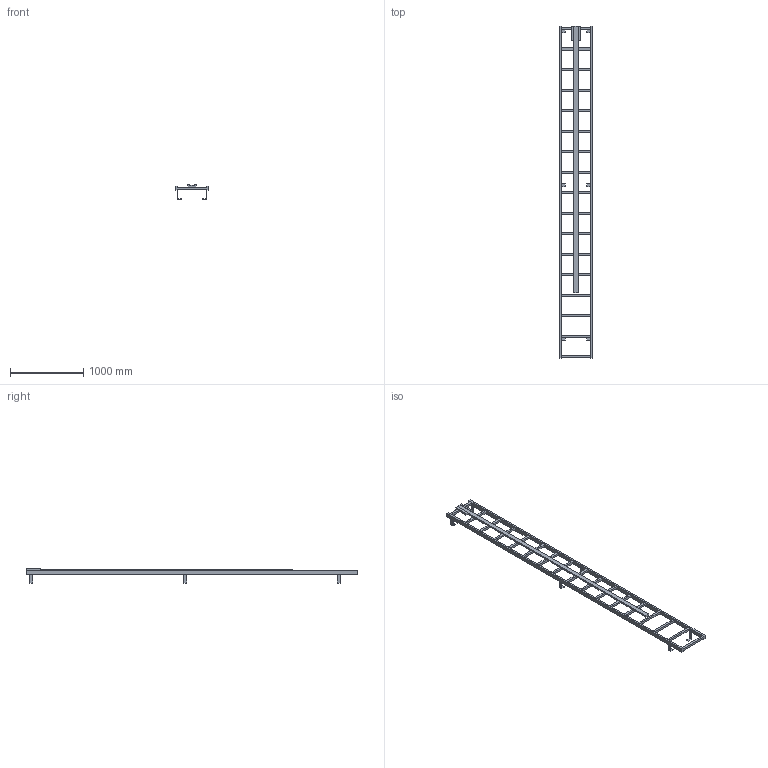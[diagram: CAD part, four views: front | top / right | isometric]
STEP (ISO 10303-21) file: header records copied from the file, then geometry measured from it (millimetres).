
FILE_DESCRIPTION((''),'2;1');
FILE_NAME('017_000109','2017-06-19T',('set'),('HUBER SE'),'PRO/ENGINEER BY PARAMETRIC TECHNOLOGY CORPORATION, 2015280','PRO/ENGINEER BY PARAMETRIC TECHNOLOGY CORPORATION, 2015280','');
FILE_SCHEMA(('CONFIG_CONTROL_DESIGN'));
Length unit declared in the file: millimetre
Products named in the file (1): 017_000109
Bounding box: 450 x 4530 x 195 mm (x, y, z)
Volume: 24380100 mm3; surface area: 2936500 mm2
Topology: 1 solids, 1 shells, 166 faces, 607 edges, 415 vertices
Faces by surface type: plane 166
Entity records: 6292 total; most frequent: CARTESIAN_POINT 1246, ORIENTED_EDGE 1012, DIRECTION 928, VECTOR 560, LINE 560, EDGE_CURVE 506, VERTEX_POINT 314, EDGE_LOOP 194
